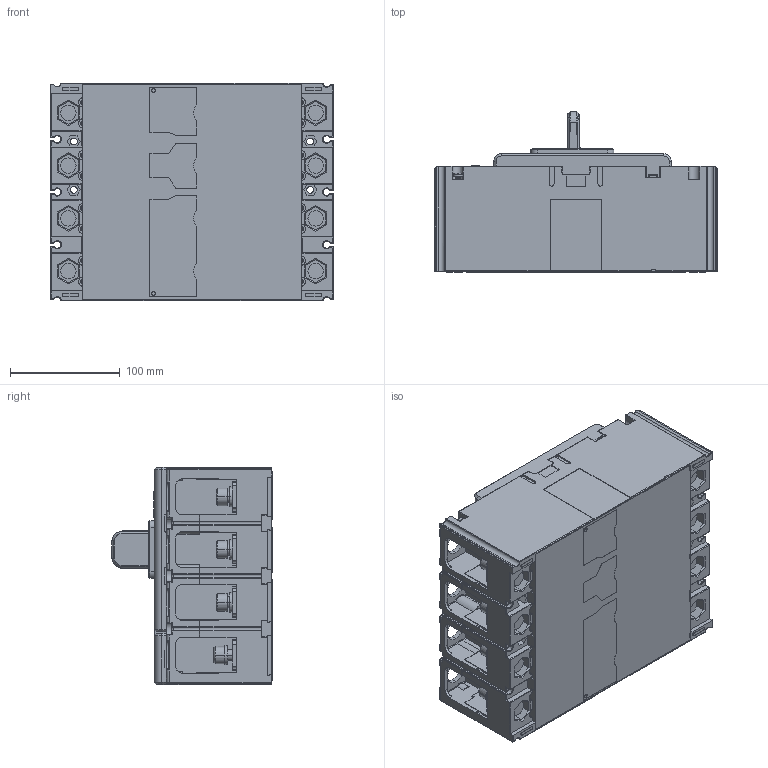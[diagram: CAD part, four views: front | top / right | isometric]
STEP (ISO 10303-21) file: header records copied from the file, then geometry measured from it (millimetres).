
FILE_DESCRIPTION((''),'2;1');
FILE_NAME('CDM6EI-400_4P_ASM','2023-05-29T',('ling.zeng'),(''),'PRO/ENGINEER BY PARAMETRIC TECHNOLOGY CORPORATION, 2015440','PRO/ENGINEER BY PARAMETRIC TECHNOLOGY CORPORATION, 2015440','');
FILE_SCHEMA(('CONFIG_CONTROL_DESIGN'));
Products named in the file (15): PRT0253; PRT0001_1; PRT0002_1; PRT0003_1; PRT0004_1; PRT0005_1; PRT0006_1; PRT0007_1; PRT0008_1; PRT0009_1; PRT0010_1; CDM6EI-400_4P_ASM_1_ASM; 8420020800_65; 8551033800_26; CDM6EI-400_4P_ASM
Assembly tree (17 placements, depth 3):
  CDM6EI-400_4P_ASM
    CDM6EI-400_4P_ASM_1_ASM
      PRT0253
      PRT0001_1
      PRT0002_1
      PRT0003_1
      PRT0004_1
      PRT0005_1
      PRT0006_1
      PRT0007_1
      PRT0008_1
      PRT0009_1
      PRT0010_1
    8420020800_65  x4
    8551033800_26
Bounding box: 257 x 145.9 x 198 mm (x, y, z)
Volume: 4653734.6 mm3; surface area: 391089.6 mm2
Topology: 16 solids, 35 shells, 3886 faces, 10625 edges, 6837 vertices
Faces by surface type: plane 2134, cylinder 1144, cone 177, torus 169, extrusion 158, sphere 66, bspline 38
Entity records: 121499 total; most frequent: CARTESIAN_POINT 27920, ORIENTED_EDGE 19806, DIRECTION 19153, EDGE_CURVE 9913, VECTOR 6461, VERTEX_POINT 6417, AXIS2_PLACEMENT_3D 6346, LINE 6303
